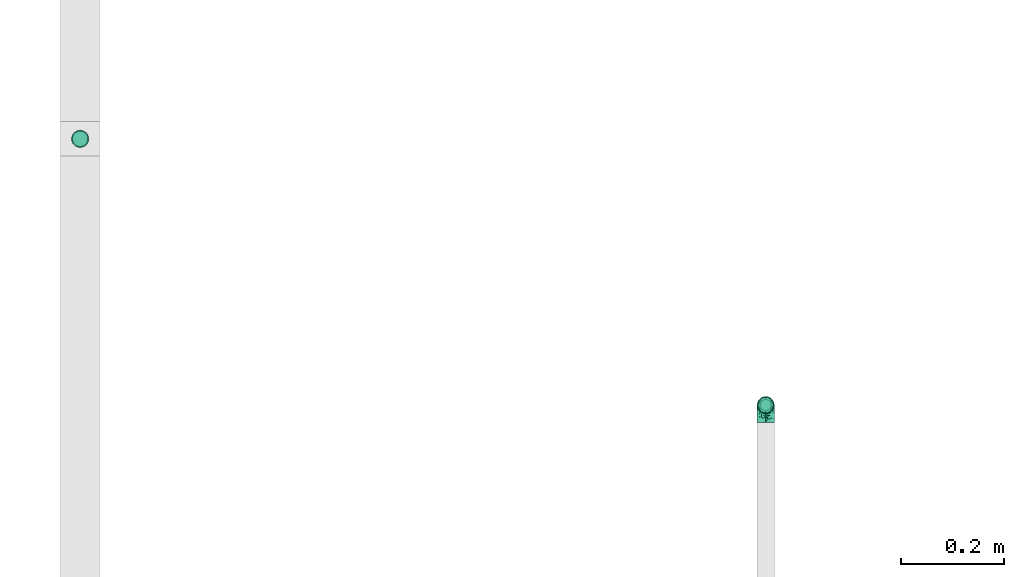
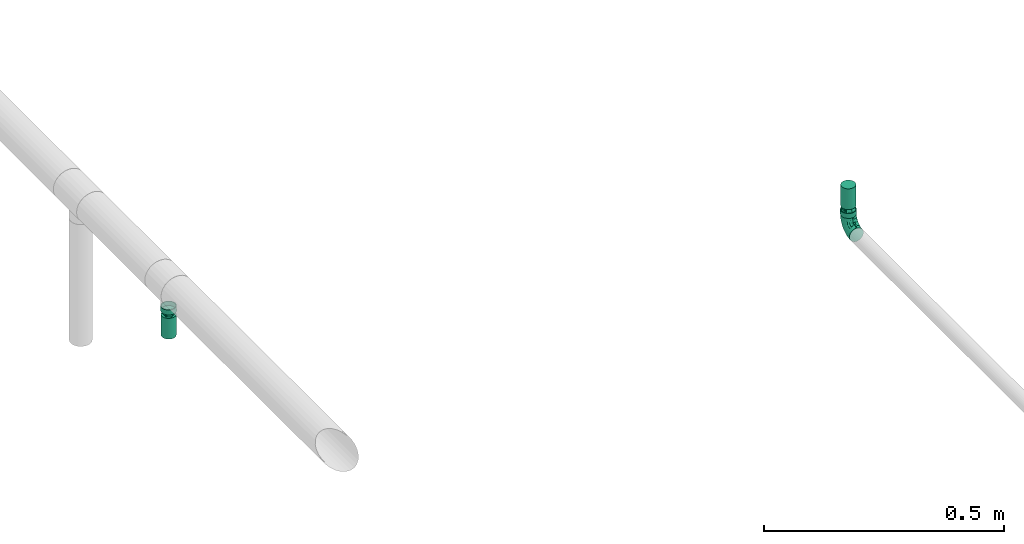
# One storey, part 10 of 32: 3 flow fittings, 2 flow segments, 2 flow terminals.
"""IFC2X3 building model written with IfcOpenShell, lengths in millimetres."""

from ifc_helpers import new_model, entity, si_unit, converted_unit, derived_unit, direction, frame, origin_with_axes, origin_2d_with_axis, place, context, subcontext, project, spatial, hollow_circle, extrude, open_shell, surface_model, source, transform, mapped, type_object, element, save


model = new_model("IFC2X3")

# Units and contexts
model_context = context("Model", 3, precision=0.01, world=frame((0.0, 4.29681676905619e-09, 0.0)), true_north=direction((4.01073788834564e-13, 1.0)))
plan_context = context("Plan", 3, precision=0.01, world=frame((0.0, 4.29681676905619e-09, 0.0)), true_north=direction((4.01073788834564e-13, 1.0)))
body_context = subcontext(model_context, "Body", "Model", "MODEL_VIEW")
ifc_project = project(units=[converted_unit("PLANEANGLEUNIT", "DEGREE", entity("IfcPositiveLengthMeasure", 0.0174532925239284), si_unit("PLANEANGLEUNIT", "RADIAN"), dimensions=[0, 0, 0, 0, 0, 0, 0]), si_unit("AREAUNIT", "SQUARE_METRE"), si_unit("LENGTHUNIT", "METRE", prefix="MILLI"), si_unit("MASSUNIT", "GRAM", prefix="KILO"), si_unit("POWERUNIT", "WATT"), si_unit("PRESSUREUNIT", "PASCAL", prefix="KILO"), si_unit("FORCEUNIT", "NEWTON", prefix="KILO"), si_unit("ELECTRICVOLTAGEUNIT", "VOLT"), si_unit("ELECTRICCURRENTUNIT", "AMPERE"), si_unit("THERMODYNAMICTEMPERATUREUNIT", "DEGREE_CELSIUS"), si_unit("TIMEUNIT", "SECOND"), si_unit("VOLUMEUNIT", "CUBIC_METRE"), derived_unit("LINEARVELOCITYUNIT", [(si_unit("LENGTHUNIT", "METRE"), 1), (si_unit("TIMEUNIT", "SECOND"), -1)]), derived_unit("VOLUMETRICFLOWRATEUNIT", [(si_unit("VOLUMEUNIT", "CUBIC_METRE"), 1), (si_unit("TIMEUNIT", "SECOND"), -1)]), derived_unit("THERMALTRANSMITTANCEUNIT", [(si_unit("POWERUNIT", "WATT"), 1), (si_unit("THERMODYNAMICTEMPERATUREUNIT", "KELVIN"), -1), (si_unit("AREAUNIT", "SQUARE_METRE"), -1)]), derived_unit("SOUNDPRESSUREUNIT", [(si_unit("PRESSUREUNIT", "PASCAL"), 1)])], contexts=[model_context, plan_context])

# Site, building, storey
site_placement = place(None, frame((0.0, -4.29681676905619e-09, 0.0), z_axis=(0.0, 0.0, 1.0), x_axis=(1.0, 0.0, 0.0)))
site = spatial("IfcSite", under=ifc_project, at=site_placement, CompositionType="ELEMENT")
building_placement = place(site_placement, frame((0.0, 4.29681676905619e-09, 0.0), z_axis=(0.0, 0.0, 1.0), x_axis=(1.0, 0.0, 0.0)))
building = spatial("IfcBuilding", under=site, at=building_placement, Name="mc-building", CompositionType="ELEMENT")
storey_placement = place(building_placement, frame((0.0, 0.0, 205200.0), z_axis=(0.0, 0.0, 1.0), x_axis=(1.0, 0.0, 0.0)))
storey = spatial("IfcBuildingStorey", under=building, at=storey_placement, Name="Nivå D + 1,2 m", CompositionType="ELEMENT", Elevation=205200.0)

# Flow fittings
pipe_fitting_type_1 = type_object("IfcPipeFittingType", Name="magi_pipe_fe_elbow_short_001", PredefinedType="BEND")
shared_shape_1 = source(origin_with_axes(), body_context, "Body", "SurfaceModel", [
    surface_model("IfcShellBasedSurfaceModel", [(-33.8, -11.9501, -11.9501), (-33.8, -14.63583, -8.45), (-33.8, -8.45, -14.63583), (-33.8, 0.0, -16.9), (-33.8, -4.37404, -16.32415), (-33.8, -16.32415, -4.37404), (-33.8, -16.9, 0.0), (-33.8, 11.9501, 11.9501), (-33.8, 14.63583, 8.45), (-33.8, 8.45, 14.63583), (-33.8, -11.9501, 11.9501), (-33.8, -8.45, 14.63583), (-33.8, -14.63583, 8.45), (-33.8, -16.32415, 4.37404), (-33.8, -4.37404, 16.32415), (-33.8, 0.0, 16.9), (-33.8, 16.9, 0.0), (-33.8, 16.32415, -4.37404), (-33.8, 16.32415, 4.37404), (-33.8, 4.37404, -16.32415), (-33.8, 8.45, -14.63583), (-33.8, 14.63583, -8.45), (-33.8, 11.9501, -11.9501), (-33.8, 4.37404, 16.32415), (-4.37404, 33.8, -16.32415), (16.9, 33.8, 0.0), (0.0, 33.8, -16.9), (-16.32415, 33.8, -4.37404), (-8.45, 33.8, -14.63583), (-14.63583, 33.8, -8.45), (-11.9501, 33.8, -11.9501), (16.32415, 33.8, 4.37404), (8.45, 33.8, -14.63583), (14.63583, 33.8, -8.45), (11.9501, 33.8, -11.9501), (4.37404, 33.8, -16.32415), (16.32415, 33.8, -4.37404), (-16.32415, 33.8, 4.37404), (-4.37404, 33.8, 16.32415), (-14.63583, 33.8, 8.45), (-8.45, 33.8, 14.63583), (-11.9501, 33.8, 11.9501), (14.63583, 33.8, 8.45), (8.45, 33.8, 14.63583), (11.9501, 33.8, 11.9501), (0.0, 33.8, 16.9), (4.37404, 33.8, 16.32415), (-16.9, 33.8, 0.0), (-24.79389, -13.12945, 9.48721), (-22.19287, -9.75018, 12.59315), (-24.09897, -14.97035, 0.0), (-14.93934, -10.76256, 8.5297), (-22.46095, -14.75051, 5.27077), (14.75051, 22.46094, 5.27077), (11.9251, 13.23888, 4.33236), (13.04069, 14.39795, 0.0), (7.71387, 13.68847, 11.55891), (9.75018, 22.19287, 12.59315), (4.10169, 13.0571, 14.04018), (-24.84007, -6.39063, 15.2048), (-25.81779, -2.23879, 16.61097), (-23.66549, 2.59054, 16.87119), (-26.50418, 14.06512, 11.08152), (-24.21253, 17.66365, 7.72657), (-29.58514, 15.86957, 7.00283), (-6.17382, -7.5455, 0.0), (-13.23888, -11.9251, 4.33236), (-14.39795, -13.04069, 0.0), (-17.81434, 18.87373, 11.97104), (-6.30846, 29.15138, 15.82987), (-2.31622, 25.28002, 16.85849), (-29.23923, 10.23435, 13.77053), (-1.45439, -2.85688, 7.61475), (-0.28326, 0.34872, 10.09509), (-5.74484, -4.04709, 10.4122), (-4.41137, 11.31918, 16.59407), (-8.39727, 3.10034, 15.7812), (-1.72649, 9.1306, 15.53089), (-17.39909, 24.75344, 7.64977), (-26.19233, 20.0512, 0.0), (-28.14518, 17.29657, 4.25857), (-26.05147, 6.6281, 15.96447), (-5.87354, 16.61944, 16.86968), (-12.51807, 12.51807, 16.48937), (-10.06312, 7.38516, 16.81295), (-3.01882, 3.01882, 13.81718), (-13.0571, -4.10169, 14.04018), (-16.82553, -0.15166, 16.38038), (10.76256, 14.93934, 8.5297), (13.12945, 24.79389, 9.48721), (6.39063, 24.84007, 15.2048), (2.23879, 25.81779, 16.61097), (-13.68847, -7.71387, 11.55891), (14.97035, 24.09897, 0.0), (-7.30894, 22.89991, 16.09489), (-10.67958, 26.17414, 14.008), (-12.78295, 18.26924, 15.06066), (-13.88562, 22.45231, 12.93244), (-18.04944, 15.16501, 14.04434), (-23.11658, 20.08178, 4.02986), (-21.84989, 21.84989, 0.0), (-18.55817, 25.48277, 3.93065), (-13.95142, 26.94732, 11.03289), (-18.57098, 7.23906, 16.59756), (-16.58335, 4.14122, 16.89279), (-17.96666, 11.46709, 15.63151), (-9.84453, 17.54304, 16.18938), (0.15166, 16.82553, 16.38038), (-23.27207, 11.47201, 14.23154), (3.84842, 5.86994, 10.70473), (-8.0212, -7.54413, 7.93275), (1.00345, -2.19508, 4.57414), (5.13203, 3.01004, 5.90201), (5.24161, 1.7543, 2.53265), (8.70457, 7.04947, 3.99182), (-20.0512, 26.19233, 0.0), (8.4852, 8.76699, 7.09296), (-4.55488, -6.72064, 4.90681), (2.05031, -2.05031, 0.0), (7.5455, 6.17382, 0.0), (-26.75399, 2.1369, -16.845), (-14.61995, 24.73803, -11.27736), (-28.45274, -13.45335, -9.81895), (-26.00469, 6.63555, -15.96645), (-23.06726, 20.04573, -4.26202), (-13.80647, -4.26506, -14.17873), (-14.67501, -0.21081, -16.07388), (-6.7902, -0.2828, -13.8478), (-24.53586, 11.08096, -14.13417), (-26.72048, 14.00837, -11.05776), (10.0967, 24.44989, -12.75976), (5.83237, 21.40218, -15.03047), (6.66249, 28.54238, -15.38093), (-20.38182, 15.48705, -12.74596), (12.53268, 21.23441, -9.15363), (12.54494, 15.67504, -5.54878), (9.7522, 12.89279, -8.66343), (-15.65186, 19.64213, -13.01327), (-12.03528, 20.66498, -14.67665), (-15.61907, 15.61906, -14.83879), (-25.56551, -15.26206, 0.0), (-24.65452, -15.12934, -5.50955), (13.45335, 28.45274, -9.81895), (15.12934, 24.65452, -5.50955), (-7.35442, -8.31014, -5.65563), (-15.67504, -12.54494, -5.54878), (-24.44989, -10.0967, -12.75976), (0.16522, 0.41303, -9.71728), (-5.70658, -5.33066, -8.89288), (-5.13869, -2.37198, -11.53565), (-21.23441, -12.53268, -9.15363), (0.71146, 7.93863, -14.09382), (0.21081, 14.67501, -16.07388), (3.49291, 14.42772, -14.76381), (-24.89911, -2.13088, -16.591), (-28.54238, -6.66249, -15.38093), (-18.44386, -7.71663, -13.26957), (2.13088, 24.89911, -16.591), (-28.64342, 17.44413, -2.89318), (1.70017, -1.28722, -5.09504), (-16.57067, 26.81947, -7.36596), (-17.69055, 27.4263, -3.76405), (-12.89279, -9.7522, -8.66343), (-5.96611, 5.96611, -15.95814), (-20.53709, 20.09345, -8.28985), (-2.1369, 26.75399, -16.845), (-6.89872, 24.58781, -16.02578), (-10.60739, 26.53157, -13.98044), (-21.40218, -5.83237, -15.03047), (2.93192, 5.89627, -11.55917), (6.89393, 12.61842, -11.82233), (5.58056, 5.95325, -8.79455), (-3.99512, 18.61798, -16.89635), (8.31014, 7.35442, -5.65563), (-9.1383, 9.86148, -16.89041), (-9.99983, 16.02119, -16.39699), (-16.68576, 9.78031, -16.34199), (-27.01915, 16.61158, -7.12979), (15.26206, 25.56551, 0.0), (-18.61798, 3.99512, -16.89635), (-19.37495, 27.82495, 0.0), (-12.61842, -6.89393, -11.82233), (-18.84705, 19.14018, -10.96545)], [open_shell([[[0, 1, 2]], [[3, 4, 2]], [[5, 6, 1]], [[7, 8, 9]], [[10, 11, 12]], [[13, 12, 11]], [[14, 15, 11]], [[16, 17, 18]], [[3, 6, 19]], [[20, 19, 17]], [[20, 17, 21]], [[22, 20, 21]], [[17, 19, 6]], [[2, 1, 6]], [[2, 6, 3]], [[6, 18, 17]], [[23, 18, 6]], [[8, 18, 23]], [[8, 23, 9]], [[13, 23, 6]], [[23, 13, 11]], [[11, 15, 23]], [[24, 25, 26]], [[27, 24, 28]], [[29, 27, 28]], [[29, 28, 30]], [[31, 25, 24]], [[32, 33, 34]], [[32, 35, 26]], [[33, 25, 36]], [[33, 32, 26]], [[25, 33, 26]], [[24, 27, 37]], [[31, 24, 37]], [[38, 37, 39]], [[40, 38, 39]], [[40, 39, 41]], [[31, 37, 38]], [[42, 43, 44]], [[43, 42, 31]], [[43, 45, 46]], [[43, 31, 38]], [[38, 45, 43]], [[37, 27, 47]], [[10, 48, 49]], [[13, 6, 50]], [[51, 48, 52]], [[53, 54, 55]], [[48, 10, 12]], [[13, 52, 12]], [[56, 57, 58]], [[49, 11, 10]], [[49, 59, 11]], [[15, 60, 61]], [[62, 63, 64]], [[65, 66, 67]], [[57, 44, 43]], [[62, 68, 63]], [[38, 69, 70]], [[9, 71, 7]], [[14, 60, 15]], [[72, 73, 74]], [[75, 76, 77]], [[7, 62, 8]], [[39, 37, 78]], [[79, 16, 80]], [[64, 18, 8]], [[15, 61, 23]], [[23, 81, 9]], [[82, 83, 84]], [[74, 85, 86]], [[59, 86, 87]], [[88, 89, 57]], [[90, 43, 46]], [[42, 53, 31]], [[46, 45, 91]], [[54, 53, 88]], [[42, 89, 53]], [[92, 86, 49]], [[89, 42, 44]], [[11, 59, 14]], [[53, 55, 93]], [[93, 31, 53]], [[66, 52, 67]], [[94, 82, 70]], [[95, 96, 94]], [[97, 98, 96]], [[79, 99, 100]], [[40, 41, 95]], [[101, 100, 99]], [[68, 78, 63]], [[38, 40, 69]], [[16, 18, 80]], [[95, 94, 69]], [[78, 101, 99]], [[41, 102, 95]], [[70, 45, 38]], [[97, 95, 102]], [[13, 50, 52]], [[90, 57, 43]], [[57, 90, 58]], [[81, 23, 61]], [[103, 104, 84]], [[105, 81, 103]], [[41, 39, 102]], [[106, 96, 83]], [[94, 106, 82]], [[91, 70, 107]], [[71, 62, 7]], [[62, 108, 98]], [[86, 59, 49]], [[67, 52, 50]], [[60, 59, 87]], [[92, 49, 51]], [[86, 85, 76]], [[91, 90, 46]], [[25, 31, 93]], [[107, 77, 58]], [[107, 58, 90]], [[58, 85, 109]], [[110, 74, 92]], [[72, 74, 110]], [[66, 51, 52]], [[72, 111, 112]], [[113, 114, 112]], [[56, 88, 57]], [[52, 48, 12]], [[49, 48, 51]], [[57, 89, 44]], [[53, 89, 88]], [[103, 81, 61]], [[71, 81, 108]], [[18, 64, 80]], [[63, 78, 99]], [[47, 115, 101]], [[101, 115, 100]], [[39, 78, 102]], [[68, 102, 78]], [[97, 96, 95]], [[105, 98, 108]], [[103, 84, 83]], [[107, 70, 82]], [[76, 84, 87]], [[82, 84, 75]], [[70, 91, 45]], [[90, 91, 107]], [[59, 60, 14]], [[61, 60, 87]], [[73, 85, 74]], [[109, 112, 116]], [[103, 61, 104]], [[105, 103, 83]], [[96, 105, 83]], [[81, 105, 108]], [[96, 98, 105]], [[62, 98, 68]], [[61, 87, 104]], [[87, 84, 104]], [[86, 76, 87]], [[77, 76, 85]], [[58, 77, 85]], [[75, 77, 107]], [[82, 75, 107]], [[76, 75, 84]], [[81, 71, 9]], [[62, 71, 108]], [[95, 69, 40]], [[70, 69, 94]], [[62, 64, 8]], [[80, 63, 99]], [[63, 80, 64]], [[80, 99, 79]], [[66, 65, 117]], [[110, 66, 117]], [[112, 114, 116]], [[118, 117, 65]], [[110, 92, 51]], [[112, 111, 113]], [[119, 55, 54]], [[74, 86, 92]], [[58, 109, 56]], [[116, 56, 109]], [[66, 110, 51]], [[72, 110, 117]], [[111, 72, 117]], [[73, 112, 109]], [[117, 118, 111]], [[113, 111, 118]], [[118, 119, 113]], [[114, 119, 54]], [[119, 114, 113]], [[116, 54, 88]], [[54, 116, 114]], [[116, 88, 56]], [[112, 73, 72]], [[85, 73, 109]], [[78, 37, 101]], [[47, 101, 37]], [[102, 68, 97]], [[97, 68, 98]], [[82, 106, 83]], [[94, 96, 106]], [[19, 120, 3]], [[29, 30, 121]], [[0, 122, 1]], [[20, 123, 19]], [[100, 124, 79]], [[125, 126, 127]], [[128, 22, 129]], [[130, 131, 132]], [[128, 129, 133]], [[134, 135, 136]], [[137, 138, 139]], [[128, 20, 22]], [[67, 140, 141]], [[134, 142, 143]], [[141, 5, 1]], [[144, 65, 145]], [[146, 0, 2]], [[147, 148, 149]], [[145, 141, 150]], [[151, 152, 153]], [[154, 4, 3]], [[2, 155, 146]], [[150, 146, 156]], [[155, 2, 4]], [[143, 135, 134]], [[35, 157, 26]], [[16, 79, 158]], [[148, 159, 144]], [[160, 161, 27]], [[145, 162, 144]], [[163, 152, 151]], [[27, 29, 160]], [[121, 164, 160]], [[32, 34, 130]], [[26, 165, 24]], [[24, 165, 166]], [[142, 34, 33]], [[30, 28, 167]], [[124, 161, 164]], [[157, 35, 132]], [[155, 154, 168]], [[123, 20, 128]], [[169, 170, 171]], [[172, 157, 152]], [[24, 166, 28]], [[132, 35, 32]], [[142, 130, 34]], [[168, 154, 126]], [[136, 135, 173]], [[133, 137, 139]], [[22, 21, 129]], [[170, 131, 130]], [[33, 36, 143]], [[172, 174, 175]], [[176, 123, 128]], [[158, 177, 17]], [[135, 55, 119]], [[167, 28, 166]], [[175, 166, 172]], [[137, 167, 138]], [[122, 141, 1]], [[140, 6, 5]], [[36, 25, 178]], [[170, 130, 134]], [[152, 157, 131]], [[165, 157, 172]], [[153, 170, 151]], [[152, 163, 174]], [[168, 125, 156]], [[122, 146, 150]], [[120, 154, 3]], [[179, 174, 126]], [[179, 126, 154]], [[126, 163, 127]], [[162, 145, 150]], [[140, 5, 141]], [[36, 178, 143]], [[55, 143, 178]], [[177, 129, 21]], [[128, 133, 139]], [[176, 128, 139]], [[120, 123, 179]], [[121, 160, 29]], [[161, 100, 180]], [[166, 175, 138]], [[121, 30, 167]], [[161, 47, 27]], [[79, 124, 158]], [[124, 164, 177]], [[161, 124, 100]], [[136, 171, 170]], [[127, 163, 151]], [[147, 171, 159]], [[148, 144, 162]], [[127, 151, 169]], [[127, 181, 125]], [[129, 177, 164]], [[21, 17, 177]], [[159, 65, 144]], [[67, 141, 145]], [[143, 55, 135]], [[135, 119, 173]], [[123, 120, 19]], [[154, 120, 179]], [[157, 165, 26]], [[166, 165, 172]], [[172, 152, 174]], [[176, 139, 175]], [[126, 174, 163]], [[176, 174, 179]], [[174, 176, 175]], [[123, 176, 179]], [[150, 181, 162]], [[127, 149, 181]], [[181, 148, 162]], [[159, 148, 147]], [[171, 136, 173]], [[170, 134, 136]], [[159, 171, 173]], [[171, 147, 169]], [[169, 147, 149]], [[151, 170, 169]], [[164, 182, 129]], [[182, 121, 137]], [[181, 149, 148]], [[169, 149, 127]], [[182, 137, 133]], [[167, 137, 121]], [[166, 138, 167]], [[175, 139, 138]], [[129, 182, 133]], [[121, 182, 164]], [[161, 160, 164]], [[47, 161, 180]], [[177, 158, 124]], [[16, 158, 17]], [[130, 132, 32]], [[157, 132, 131]], [[143, 142, 33]], [[130, 142, 134]], [[154, 155, 4]], [[146, 155, 168]], [[146, 122, 0]], [[141, 122, 150]], [[152, 131, 153]], [[159, 119, 118]], [[67, 145, 65]], [[170, 153, 131]], [[119, 159, 173]], [[159, 118, 65]], [[156, 125, 181]], [[126, 125, 168]], [[150, 156, 181]], [[168, 156, 146]]])]),
])
flow_fitting_placement = place(storey_placement, frame((324834.97595, 464062.86677, 4357.43145999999), z_axis=(-1.0, 0.0, 0.0), x_axis=(0.0, 0.0, -1.0)))
element("IfcFlowFitting", 1, at=flow_fitting_placement, inside=storey, type_object=pipe_fitting_type_1, Name="magi_pipe_fe_elbow_short_001", context=body_context, shape_type="MappedRepresentation", body=[
    mapped(shared_shape_1, transform((0.0, 0.0, 0.0), scale=1.0)),
])
pipe_fitting_type_2 = type_object("IfcPipeFittingType", Name="magi_pipe_fe_reducer_centric_short_001", PredefinedType="TRANSITION")
shared_shape_2 = source(origin_with_axes(), body_context, "Body", "SurfaceModel", [
    surface_model("IfcShellBasedSurfaceModel", [(-2.0, 11.9501, 11.9501), (-2.0, 0.0, 16.9), (-2.0, 4.37404, 16.32415), (-2.0, 8.45, 14.63583), (-2.0, 14.63583, 8.45), (-2.0, 16.32415, 4.37404), (-2.0, -16.32415, 4.37404), (-2.0, -8.45, 14.63583), (-2.0, -14.63583, 8.45), (-2.0, -11.9501, 11.9501), (-2.0, -4.37404, 16.32415), (-2.0, -16.32415, -4.37404), (-2.0, -16.9, 0.0), (-2.0, -8.45, -14.63583), (-2.0, 16.32415, -4.37404), (-2.0, 11.9501, -11.9501), (-2.0, 14.63583, -8.45), (-2.0, 8.45, -14.63583), (-2.0, 4.37404, -16.32415), (-2.0, 0.0, -16.9), (-2.0, -11.9501, -11.9501), (-2.0, -14.63583, -8.45), (-2.0, -4.37404, -16.32415), (-2.0, 16.9, 0.0), (0.0, 4.37404, -16.32415), (0.0, 8.45, -14.63583), (0.0, 11.9501, -11.9501), (0.0, 0.0, -16.9), (0.0, 16.32415, -4.37404), (0.0, 16.32415, 4.37404), (0.0, 14.63583, -8.45), (0.0, -8.45, -14.63583), (0.0, -4.37404, -16.32415), (0.0, -11.9501, -11.9501), (0.0, -16.32415, -4.37404), (0.0, -14.63583, -8.45), (0.0, -16.32415, 4.37404), (0.0, 16.9, 0.0), (0.0, 14.63583, 8.45), (0.0, 11.9501, 11.9501), (0.0, 4.37404, 16.32415), (0.0, 8.45, 14.63583), (0.0, 0.0, 16.9), (0.0, -14.63583, 8.45), (0.0, -16.9, 0.0), (0.0, -8.45, 14.63583), (0.0, -11.9501, 11.9501), (0.0, -4.37404, 16.32415), (14.4, 5.35, -9.26647), (14.4, 0.0, -10.7), (14.4, 2.76936, -10.33541), (14.4, 10.33541, -2.76936), (14.4, 7.56604, -7.56604), (14.4, -5.35, -9.26647), (14.4, 9.26647, -5.35), (14.4, -9.26647, 5.35), (14.4, -2.76936, -10.33541), (14.4, -7.56604, -7.56604), (14.4, -10.33541, -2.76936), (14.4, -9.26647, -5.35), (14.4, 10.33541, 2.76936), (14.4, 10.7, 0.0), (14.4, 9.26647, 5.35), (14.4, 7.56604, 7.56604), (14.4, 2.76936, 10.33541), (14.4, 0.0, 10.7), (14.4, 5.35, 9.26647), (14.4, -10.33541, 2.76936), (14.4, -10.7, 0.0), (14.4, -7.56604, 7.56604), (14.4, -2.76936, 10.33541), (14.4, -5.35, 9.26647), (12.4, 0.0, 10.7), (12.4, 2.76936, 10.33541), (12.4, 5.35, 9.26647), (12.4, 7.56604, 7.56604), (12.4, 9.26647, 5.35), (12.4, 10.33541, 2.76936), (12.4, -10.33541, 2.76936), (12.4, 10.33541, -2.76936), (12.4, -2.76936, 10.33541), (12.4, -7.56604, 7.56604), (12.4, -5.35, 9.26647), (12.4, -9.26647, 5.35), (12.4, -10.33541, -2.76936), (12.4, -10.7, 0.0), (12.4, 2.76936, -10.33541), (12.4, 9.26647, -5.35), (12.4, 7.56604, -7.56604), (12.4, 5.35, -9.26647), (12.4, -7.56604, -7.56604), (12.4, -9.26647, -5.35), (12.4, -5.35, -9.26647), (12.4, 0.0, -10.7), (12.4, -2.76936, -10.33541), (12.4, 10.7, 0.0), (12.4, 9.3625, -2.31662), (0.0, 14.42505, -5.97505), (0.0, 15.66253, -2.98753), (12.4, -6.6875, -6.94985), (0.0, -13.18758, -8.96258), (0.0, 2.98753, -15.66253), (12.4, 0.0, -9.26647), (12.4, 6.6875, -6.94985), (0.0, 8.96258, -13.18758), (12.4, -9.3625, -2.31662), (0.0, -15.66253, -2.98753), (0.0, -14.42505, -5.97505), (0.0, 5.97505, -14.42505), (0.0, -2.98753, -15.66253), (0.0, -8.96258, -13.18758), (0.0, 13.18758, -8.96258), (12.4, 8.025, -4.63324), (12.4, -2.675, -9.26647), (12.4, 2.675, -9.26647), (0.0, -5.97505, -14.42505), (12.4, -8.025, -4.63324), (12.4, -9.3625, 2.31662), (0.0, -14.42505, 5.97505), (0.0, -15.66253, 2.98753), (12.4, 6.6875, 6.94985), (0.0, 13.18758, 8.96258), (0.0, -2.98753, 15.66253), (12.4, 0.0, 9.26647), (12.4, -6.6875, 6.94985), (0.0, -8.96258, 13.18758), (12.4, 9.3625, 2.31662), (0.0, 15.66253, 2.98753), (0.0, 14.42505, 5.97505), (0.0, -5.97505, 14.42505), (0.0, 2.98753, 15.66253), (0.0, 8.96258, 13.18758), (0.0, -13.18758, 8.96258), (12.4, -8.025, 4.63324), (12.4, 2.675, 9.26647), (12.4, -2.675, 9.26647), (0.0, 5.97505, 14.42505), (12.4, 8.025, 4.63324)], [open_shell([[[0, 1, 2]], [[0, 2, 3]], [[0, 4, 5]], [[0, 5, 1]], [[1, 5, 6]], [[7, 8, 9]], [[7, 10, 1]], [[8, 7, 1]], [[1, 6, 8]], [[6, 11, 12]], [[6, 5, 13]], [[5, 14, 15]], [[15, 14, 16]], [[15, 17, 18]], [[13, 5, 15]], [[19, 15, 18]], [[11, 20, 21]], [[20, 11, 13]], [[13, 19, 22]], [[11, 6, 13]], [[15, 19, 13]], [[5, 23, 14]], [[24, 25, 26]], [[27, 24, 26]], [[26, 28, 29]], [[28, 26, 30]], [[26, 29, 31]], [[27, 31, 32]], [[27, 26, 31]], [[33, 34, 35]], [[34, 33, 31]], [[31, 36, 34]], [[29, 28, 37]], [[29, 38, 39]], [[29, 39, 40]], [[40, 36, 31]], [[40, 39, 41]], [[36, 40, 42]], [[42, 43, 36]], [[44, 34, 36]], [[43, 45, 46]], [[43, 42, 45]], [[45, 42, 47]], [[31, 29, 40]], [[11, 34, 12]], [[21, 35, 11]], [[31, 20, 13]], [[21, 20, 33]], [[32, 13, 22]], [[11, 35, 34]], [[34, 44, 12]], [[32, 31, 13]], [[33, 20, 31]], [[33, 35, 21]], [[27, 32, 22]], [[22, 19, 27]], [[18, 24, 19]], [[17, 25, 18]], [[30, 15, 16]], [[17, 15, 26]], [[28, 16, 14]], [[17, 26, 25]], [[25, 24, 18]], [[37, 28, 14]], [[30, 16, 28]], [[30, 26, 15]], [[23, 37, 14]], [[19, 24, 27]], [[5, 29, 23]], [[4, 38, 5]], [[41, 0, 3]], [[4, 0, 39]], [[40, 3, 2]], [[5, 38, 29]], [[29, 37, 23]], [[40, 41, 3]], [[39, 0, 41]], [[39, 38, 4]], [[42, 40, 2]], [[2, 1, 42]], [[10, 47, 1]], [[7, 45, 10]], [[43, 9, 8]], [[7, 9, 46]], [[36, 8, 6]], [[7, 46, 45]], [[45, 47, 10]], [[44, 36, 6]], [[43, 8, 36]], [[43, 46, 9]], [[12, 44, 6]], [[1, 47, 42]], [[33, 44, 27]], [[48, 49, 50]], [[51, 48, 52]], [[53, 48, 51]], [[51, 52, 54]], [[55, 53, 51]], [[49, 53, 56]], [[49, 48, 53]], [[57, 58, 59]], [[58, 57, 53]], [[53, 55, 58]], [[60, 51, 61]], [[60, 62, 63]], [[51, 63, 55]], [[64, 65, 63]], [[64, 63, 66]], [[55, 63, 65]], [[58, 67, 68]], [[55, 67, 58]], [[69, 70, 71]], [[70, 69, 55]], [[65, 70, 55]], [[51, 60, 63]], [[72, 73, 74]], [[72, 74, 75]], [[75, 76, 77]], [[72, 75, 78]], [[79, 78, 75]], [[80, 81, 82]], [[81, 80, 78]], [[81, 78, 83]], [[80, 72, 78]], [[78, 84, 85]], [[79, 75, 77]], [[84, 78, 79]], [[86, 79, 87]], [[88, 89, 86]], [[88, 86, 87]], [[84, 79, 86]], [[84, 90, 91]], [[90, 84, 92]], [[92, 93, 94]], [[92, 84, 86]], [[86, 93, 92]], [[79, 77, 95]], [[84, 58, 85]], [[91, 59, 84]], [[53, 90, 92]], [[91, 90, 57]], [[56, 92, 94]], [[84, 59, 58]], [[58, 68, 85]], [[56, 53, 92]], [[57, 90, 53]], [[57, 59, 91]], [[49, 56, 94]], [[94, 93, 49]], [[86, 50, 93]], [[89, 48, 86]], [[54, 88, 87]], [[89, 88, 52]], [[51, 87, 79]], [[89, 52, 48]], [[48, 50, 86]], [[61, 51, 79]], [[54, 87, 51]], [[54, 52, 88]], [[95, 61, 79]], [[93, 50, 49]], [[77, 60, 95]], [[76, 62, 77]], [[66, 75, 74]], [[76, 75, 63]], [[64, 74, 73]], [[77, 62, 60]], [[60, 61, 95]], [[64, 66, 74]], [[63, 75, 66]], [[63, 62, 76]], [[65, 64, 73]], [[73, 72, 65]], [[80, 70, 72]], [[82, 71, 80]], [[55, 81, 83]], [[82, 81, 69]], [[67, 83, 78]], [[82, 69, 71]], [[71, 70, 80]], [[68, 67, 78]], [[55, 83, 67]], [[55, 69, 81]], [[85, 68, 78]], [[72, 70, 65]], [[74, 82, 95]], [[95, 82, 92]], [[92, 89, 95]], [[92, 82, 85]], [[42, 39, 44]], [[44, 46, 42]], [[39, 26, 44]], [[27, 44, 26]], [[26, 39, 37]], [[96, 97, 98]], [[33, 99, 100]], [[101, 102, 27]], [[98, 37, 95]], [[26, 103, 104]], [[104, 103, 89]], [[105, 106, 107]], [[89, 108, 104]], [[102, 109, 27]], [[110, 99, 33]], [[95, 96, 98]], [[103, 111, 112]], [[109, 102, 113]], [[85, 44, 106]], [[102, 101, 114]], [[110, 115, 92]], [[96, 112, 97]], [[107, 116, 105]], [[85, 106, 105]], [[113, 115, 109]], [[92, 115, 113]], [[116, 107, 100]], [[108, 89, 114]], [[111, 103, 26]], [[111, 97, 112]], [[99, 110, 92]], [[116, 100, 99]], [[101, 108, 114]], [[117, 118, 119]], [[39, 120, 121]], [[122, 123, 42]], [[119, 44, 85]], [[46, 124, 125]], [[125, 124, 82]], [[126, 127, 128]], [[82, 129, 125]], [[123, 130, 42]], [[131, 120, 39]], [[85, 117, 119]], [[124, 132, 133]], [[130, 123, 134]], [[95, 37, 127]], [[123, 122, 135]], [[131, 136, 74]], [[117, 133, 118]], [[128, 137, 126]], [[95, 127, 126]], [[134, 136, 130]], [[74, 136, 134]], [[137, 128, 121]], [[129, 82, 135]], [[132, 124, 46]], [[132, 118, 133]], [[120, 131, 74]], [[137, 121, 120]], [[122, 129, 135]]])]),
])
for number, where, z_axis, x_axis, name in (
    (2, (323497.5, 464582.26745, 4297.78346000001), (1.0, 0.0, 0.0), (0.0, 0.0, -1.0), "magi_pipe_fe_reducer_centric_short_001"),
    (3, (324834.97595, 464062.86677, 4402.73146000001), (-1.0, 0.0, 0.0), (0.0, 0.0, 1.0), "magi_pipe_fe_reducer_centric_short_001"),
):
    element("IfcFlowFitting", number, at=place(storey_placement, frame(where, z_axis=z_axis, x_axis=x_axis)), inside=storey, type_object=pipe_fitting_type_2, Name=name, context=body_context, shape_type="MappedRepresentation", body=[
        mapped(shared_shape_2, transform((0.0, 0.0, 0.0), scale=1.0)),
    ])

# Flow segments
pipe_segment_type = type_object("IfcPipeSegmentType", Name="Stålrør normaltykke", PredefinedType="RIGIDSEGMENT")
shared_shape_3 = source(origin_with_axes(), body_context, "Body", "SweptSolid", [
    extrude(hollow_circle(Radius=16.9, WallThickness=2.0, at=origin_2d_with_axis()), frame((0.0, 0.0, 0.0), z_axis=(1.0, 0.0, 0.0), x_axis=(0.0, 1.0, 0.0)), (0.0, 0.0, 1.0), 12.5),
])
for number, where, z_axis, x_axis in (
    (4, (323497.5, 464582.26745, 4310.28146), (-1.0, 0.0, 0.0), (0.0, 0.0, -1.0)),
    (5, (324834.97595, 464062.86677, 4402.73146000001), (-1.0, 0.0, 0.0), (0.0, 0.0, -1.0)),
):
    element("IfcFlowSegment", number, at=place(storey_placement, frame(where, z_axis=z_axis, x_axis=x_axis)), inside=storey, type_object=pipe_segment_type, Name="Stålrør normaltykke", context=body_context, shape_type="MappedRepresentation", body=[
        mapped(shared_shape_3, transform((0.0, 0.0, 0.0), scale=1.0)),
    ])

# Flow terminals
fire_suppression_terminal_type = type_object("IfcFireSuppressionTerminalType", Name="SP-15-K80-68DGR-STD-NEDOVER", PredefinedType="NOTDEFINED")
shared_shape_4 = source(origin_with_axes(), body_context, "Body", "SurfaceModel", [
    surface_model("IfcShellBasedSurfaceModel", [(4.1411, -15.45481, 53.0), (8.0, -13.85641, 53.0), (11.31371, -11.31371, 53.0), (-8.0, -13.85641, 53.0), (15.45481, -4.1411, 53.0), (16.0, 0.0, 53.0), (13.85641, -8.0, 53.0), (0.0, -16.0, 53.0), (-4.1411, -15.45481, 53.0), (-13.85641, -8.0, 53.0), (-11.31371, -11.31371, 53.0), (-15.45481, -4.1411, 53.0), (15.45481, 4.1411, 53.0), (13.85641, 8.0, 53.0), (11.31371, 11.31371, 53.0), (-4.1411, 15.45481, 53.0), (8.0, 13.85641, 53.0), (4.1411, 15.45481, 53.0), (0.0, 16.0, 53.0), (-13.85641, 8.0, 53.0), (-15.45481, 4.1411, 53.0), (-16.0, 0.0, 53.0), (-11.31371, 11.31371, 53.0), (-8.0, 13.85641, 53.0), (0.0, 16.0, 0.0), (4.1411, 15.45481, 0.0), (8.0, 13.85641, 0.0), (-4.1411, 15.45481, 0.0), (11.31371, 11.31371, 0.0), (13.85641, 8.0, 0.0), (15.45481, 4.1411, 0.0), (-15.45481, -4.1411, 0.0), (-11.31371, 11.31371, 0.0), (-8.0, 13.85641, 0.0), (-13.85641, 8.0, 0.0), (-15.45481, 4.1411, 0.0), (-16.0, 0.0, 0.0), (4.1411, -15.45481, 0.0), (16.0, 0.0, 0.0), (15.45481, -4.1411, 0.0), (13.85641, -8.0, 0.0), (11.31371, -11.31371, 0.0), (8.0, -13.85641, 0.0), (-8.0, -13.85641, 0.0), (-13.85641, -8.0, 0.0), (-11.31371, -11.31371, 0.0), (0.0, -16.0, 0.0), (-4.1411, -15.45481, 0.0)], [open_shell([[[0, 1, 2]], [[3, 0, 2]], [[4, 5, 2]], [[4, 2, 6]], [[3, 2, 5]], [[7, 3, 8]], [[7, 0, 3]], [[3, 9, 10]], [[9, 3, 11]], [[5, 11, 3]], [[5, 12, 11]], [[12, 13, 14]], [[15, 12, 14]], [[16, 17, 18]], [[14, 16, 15]], [[18, 15, 16]], [[11, 19, 20]], [[21, 11, 20]], [[22, 15, 23]], [[15, 22, 19]], [[19, 11, 15]], [[11, 12, 15]], [[24, 25, 26]], [[27, 24, 26]], [[28, 29, 30]], [[27, 26, 28]], [[27, 28, 31]], [[27, 32, 33]], [[32, 27, 34]], [[34, 31, 35]], [[31, 34, 27]], [[35, 31, 36]], [[28, 30, 31]], [[37, 38, 39]], [[37, 39, 40]], [[41, 42, 37]], [[41, 37, 40]], [[38, 37, 43]], [[44, 43, 45]], [[43, 44, 31]], [[43, 46, 47]], [[43, 31, 38]], [[37, 46, 43]], [[38, 31, 30]], [[11, 31, 44]], [[45, 9, 44]], [[3, 43, 47]], [[45, 43, 10]], [[8, 47, 46]], [[31, 21, 36]], [[31, 11, 21]], [[44, 9, 11]], [[45, 10, 9]], [[3, 10, 43]], [[47, 8, 3]], [[46, 7, 8]], [[0, 37, 42]], [[41, 1, 42]], [[6, 40, 39]], [[41, 40, 2]], [[4, 39, 38]], [[37, 0, 7]], [[42, 1, 0]], [[41, 2, 1]], [[40, 6, 2]], [[4, 6, 39]], [[38, 5, 4]], [[37, 7, 46]], [[12, 38, 30]], [[13, 30, 29]], [[16, 26, 25]], [[17, 25, 24]], [[30, 13, 12]], [[12, 5, 38]], [[28, 14, 13]], [[28, 26, 14]], [[14, 26, 16]], [[25, 17, 16]], [[28, 13, 29]], [[24, 18, 17]], [[15, 27, 33]], [[32, 23, 33]], [[19, 34, 35]], [[32, 34, 22]], [[20, 35, 36]], [[27, 15, 18]], [[33, 23, 15]], [[32, 22, 23]], [[34, 19, 22]], [[20, 19, 35]], [[36, 21, 20]], [[27, 18, 24]]])]),
])
flow_terminal_1_placement = place(storey_placement, frame((323497.5, 464582.26745, 4288.43145999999), z_axis=(0.0, 0.0, -1.0), x_axis=(1.0, 0.0, 0.0)))
element("IfcFlowTerminal", 6, at=flow_terminal_1_placement, inside=storey, type_object=fire_suppression_terminal_type, Name="SP-15-K80-68DGR-STD-NEDOVER", context=body_context, shape_type="MappedRepresentation", body=[
    mapped(shared_shape_4, transform((0.0, 0.0, 0.0), scale=1.0)),
])
shared_shape_5 = source(origin_with_axes(), body_context, "Body", "SurfaceModel", [
    surface_model("IfcShellBasedSurfaceModel", [(15.45481, -4.1411, 53.0), (13.85641, -8.0, 53.0), (15.45481, -4.1411, 0.0), (16.0, 0.0, 0.0), (16.0, 0.0, 53.0), (15.45481, 4.1411, 0.0), (13.85641, 8.0, 53.0), (15.45481, 4.1411, 53.0), (11.31371, 11.31371, 53.0), (8.0, 13.85641, 53.0), (4.1411, 15.45481, 53.0), (-8.0, 13.85641, 53.0), (-4.1411, 15.45481, 53.0), (0.0, 16.0, 53.0), (-11.31371, 11.31371, 53.0), (-13.85641, 8.0, 53.0), (-15.45481, 4.1411, 53.0), (11.31371, -11.31371, 53.0), (-16.0, 0.0, 53.0), (0.0, -16.0, 53.0), (4.1411, -15.45481, 53.0), (8.0, -13.85641, 53.0), (-13.85641, -8.0, 53.0), (-11.31371, -11.31371, 53.0), (-15.45481, -4.1411, 53.0), (-8.0, -13.85641, 53.0), (-4.1411, -15.45481, 53.0), (8.0, -13.85641, 0.0), (4.1411, -15.45481, 0.0), (0.0, -16.0, 0.0), (-4.1411, -15.45481, 0.0), (13.85641, -8.0, 0.0), (11.31371, -11.31371, 0.0), (-16.0, 0.0, 0.0), (-8.0, -13.85641, 0.0), (-11.31371, -11.31371, 0.0), (-13.85641, -8.0, 0.0), (-15.45481, -4.1411, 0.0), (4.1411, 15.45481, 0.0), (13.85641, 8.0, 0.0), (8.0, 13.85641, 0.0), (11.31371, 11.31371, 0.0), (-15.45481, 4.1411, 0.0), (-11.31371, 11.31371, 0.0), (-8.0, 13.85641, 0.0), (-13.85641, 8.0, 0.0), (-4.1411, 15.45481, 0.0), (0.0, 16.0, 0.0)], [open_shell([[[0, 1, 2]], [[3, 4, 0]], [[5, 6, 7]], [[7, 4, 3]], [[8, 9, 10]], [[8, 10, 11]], [[8, 4, 7]], [[6, 8, 7]], [[4, 8, 11]], [[12, 11, 13]], [[11, 10, 13]], [[14, 15, 11]], [[16, 11, 15]], [[11, 16, 4]], [[16, 0, 4]], [[17, 1, 0]], [[18, 17, 16]], [[19, 20, 21]], [[18, 21, 17]], [[21, 18, 19]], [[22, 23, 24]], [[18, 24, 23]], [[25, 26, 23]], [[18, 23, 26]], [[26, 19, 18]], [[0, 16, 17]], [[27, 28, 29]], [[27, 29, 30]], [[2, 31, 32]], [[32, 27, 33]], [[2, 32, 33]], [[34, 35, 30]], [[36, 30, 35]], [[36, 37, 30]], [[37, 27, 30]], [[37, 33, 27]], [[33, 5, 2]], [[38, 5, 33]], [[39, 5, 38]], [[38, 40, 41]], [[39, 38, 41]], [[33, 42, 38]], [[43, 44, 45]], [[42, 45, 44]], [[46, 47, 44]], [[38, 42, 44]], [[44, 47, 38]], [[5, 3, 2]], [[45, 42, 16]], [[45, 15, 43]], [[46, 44, 11]], [[14, 44, 43]], [[47, 46, 12]], [[33, 18, 42]], [[18, 16, 42]], [[16, 15, 45]], [[15, 14, 43]], [[44, 14, 11]], [[11, 12, 46]], [[12, 13, 47]], [[40, 38, 10]], [[40, 9, 41]], [[5, 39, 6]], [[8, 39, 41]], [[3, 5, 7]], [[13, 10, 38]], [[10, 9, 40]], [[9, 8, 41]], [[8, 6, 39]], [[47, 13, 38]], [[2, 3, 0]], [[31, 2, 1]], [[28, 27, 21]], [[29, 28, 20]], [[1, 17, 32]], [[17, 27, 32]], [[21, 27, 17]], [[21, 20, 28]], [[31, 1, 32]], [[20, 19, 29]], [[34, 30, 26]], [[34, 25, 35]], [[37, 36, 22]], [[23, 36, 35]], [[33, 37, 24]], [[19, 26, 30]], [[26, 25, 34]], [[25, 23, 35]], [[23, 22, 36]], [[37, 22, 24]], [[24, 18, 33]], [[29, 19, 30]]])]),
])
flow_terminal_2_placement = place(storey_placement, frame((324834.97595, 464062.86677, 4412.08345999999), z_axis=(0.0, 0.0, 1.0), x_axis=(0.0, 1.0, 0.0)))
element("IfcFlowTerminal", 7, at=flow_terminal_2_placement, inside=storey, type_object=fire_suppression_terminal_type, Name="SP-15-K80-68DGR-STD-NEDOVER", context=body_context, shape_type="MappedRepresentation", body=[
    mapped(shared_shape_5, transform((0.0, 0.0, 0.0), scale=1.0)),
])

save(model, "model.ifc")
